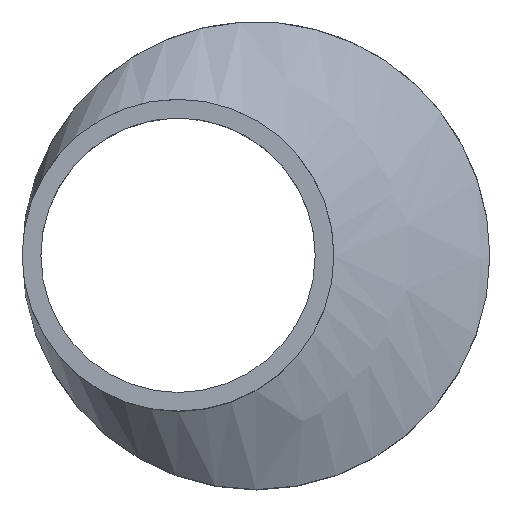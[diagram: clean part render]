
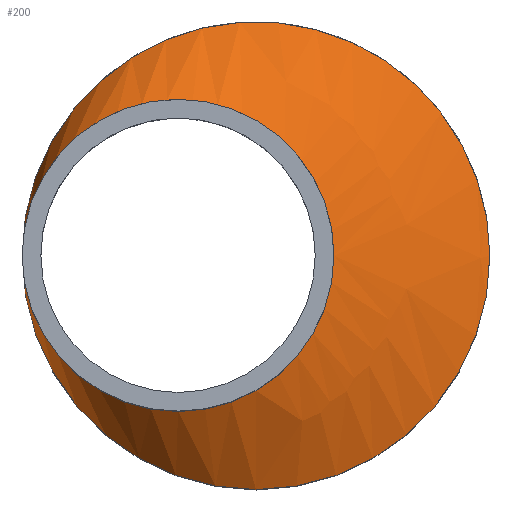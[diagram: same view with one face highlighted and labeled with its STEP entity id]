
A CAD part, top view. The second image highlights one B-rep face of the part: STEP entity #200.
In plain terms, the highlighted free-form (B-spline) face has degree [1, 2] with [2, 9] control points.
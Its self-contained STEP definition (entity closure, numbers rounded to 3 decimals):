
#15=B_SPLINE_CURVE_WITH_KNOTS($,1,(#381,#382),.UNSPECIFIED.,.F.,.F.,(2,
2),(-0.457,0.),.UNSPECIFIED.);
#17=(
BOUNDED_SURFACE()
B_SPLINE_SURFACE(1,2,((#359,#360,#361,#362,#363,#364,#365,#366,#367),(#368,
#369,#370,#371,#372,#373,#374,#375,#376)),.UNSPECIFIED.,.F.,.T.,.F.)
B_SPLINE_SURFACE_WITH_KNOTS((2,2),(3,2,2,2,3),(-1.563,0.786),
(-3.142,-1.571,0.,1.571,3.142),
 .UNSPECIFIED.)
GEOMETRIC_REPRESENTATION_ITEM()
RATIONAL_B_SPLINE_SURFACE(((1.,0.707,1.,0.707,1.,
0.707,1.,0.707,1.),(1.,0.707,1.,0.707,
1.,0.707,1.,0.707,1.)))
REPRESENTATION_ITEM($)
SURFACE()
);
#47=FACE_OUTER_BOUND($,#67,.T.);
#67=EDGE_LOOP($,(#157,#158,#159,#160,#161,#162));
#83=CIRCLE($,#221,37.5);
#84=CIRCLE($,#222,37.5);
#91=CIRCLE($,#231,25.);
#92=CIRCLE($,#232,25.);
#101=VERTEX_POINT($,#321);
#102=VERTEX_POINT($,#322);
#109=VERTEX_POINT($,#377);
#110=VERTEX_POINT($,#378);
#119=EDGE_CURVE($,#101,#102,#83,.T.);
#120=EDGE_CURVE($,#102,#101,#84,.T.);
#128=EDGE_CURVE($,#109,#110,#91,.T.);
#129=EDGE_CURVE($,#110,#109,#92,.T.);
#130=EDGE_CURVE($,#110,#102,#15,.T.);
#157=ORIENTED_EDGE($,*,*,#128,.F.);
#158=ORIENTED_EDGE($,*,*,#129,.F.);
#159=ORIENTED_EDGE($,*,*,#130,.T.);
#160=ORIENTED_EDGE($,*,*,#119,.F.);
#161=ORIENTED_EDGE($,*,*,#120,.F.);
#162=ORIENTED_EDGE($,*,*,#130,.F.);
#200=ADVANCED_FACE($,(#47),#17,.F.);
#221=AXIS2_PLACEMENT_3D($,#323,#266,#267);
#222=AXIS2_PLACEMENT_3D($,#324,#268,#269);
#231=AXIS2_PLACEMENT_3D($,#379,#286,#287);
#232=AXIS2_PLACEMENT_3D($,#380,#288,#289);
#266=DIRECTION('center_axis',(0.,0.,-1.));
#267=DIRECTION('ref_axis',(-1.,0.,0.));
#268=DIRECTION('center_axis',(0.,0.,-1.));
#269=DIRECTION('ref_axis',(-1.,0.,0.));
#286=DIRECTION('center_axis',(0.,0.,1.));
#287=DIRECTION('ref_axis',(-1.,0.,0.));
#288=DIRECTION('center_axis',(0.,0.,1.));
#289=DIRECTION('ref_axis',(-1.,0.,0.));
#321=CARTESIAN_POINT('',(37.5,0.,37.));
#322=CARTESIAN_POINT('',(-19.981,31.733,37.));
#323=CARTESIAN_POINT('Origin',(0.,0.,37.));
#324=CARTESIAN_POINT('Origin',(0.,0.,37.));
#359=CARTESIAN_POINT('Ctrl Pts',(0.,67.927,
9.627));
#360=CARTESIAN_POINT('Ctrl Pts',(-37.5,67.927,-17.746));
#361=CARTESIAN_POINT('Ctrl Pts',(-37.5,0.,-17.746));
#362=CARTESIAN_POINT('Ctrl Pts',(-37.5,-67.927,-17.746));
#363=CARTESIAN_POINT('Ctrl Pts',(0.,-67.927,
9.627));
#364=CARTESIAN_POINT('Ctrl Pts',(37.5,-67.927,37.));
#365=CARTESIAN_POINT('Ctrl Pts',(37.5,0.,37.));
#366=CARTESIAN_POINT('Ctrl Pts',(37.5,67.927,37.));
#367=CARTESIAN_POINT('Ctrl Pts',(0.,67.927,
9.627));
#368=CARTESIAN_POINT('Ctrl Pts',(-30.033,13.525,50.771));
#369=CARTESIAN_POINT('Ctrl Pts',(-37.5,13.525,45.321));
#370=CARTESIAN_POINT('Ctrl Pts',(-37.5,0.,45.321));
#371=CARTESIAN_POINT('Ctrl Pts',(-37.5,-13.525,45.321));
#372=CARTESIAN_POINT('Ctrl Pts',(-30.033,-13.525,50.771));
#373=CARTESIAN_POINT('Ctrl Pts',(-22.567,-13.525,56.221));
#374=CARTESIAN_POINT('Ctrl Pts',(-22.567,0.,
56.221));
#375=CARTESIAN_POINT('Ctrl Pts',(-22.567,13.525,56.221));
#376=CARTESIAN_POINT('Ctrl Pts',(-30.033,13.525,50.771));
#377=CARTESIAN_POINT('',(12.5,0.,45.));
#378=CARTESIAN_POINT('',(-25.821,21.156,45.));
#379=CARTESIAN_POINT('Origin',(-12.5,0.,45.));
#380=CARTESIAN_POINT('Origin',(-12.5,0.,45.));
#381=CARTESIAN_POINT('Ctrl Pts',(-25.821,21.156,45.));
#382=CARTESIAN_POINT('Ctrl Pts',(-19.981,31.733,37.));
